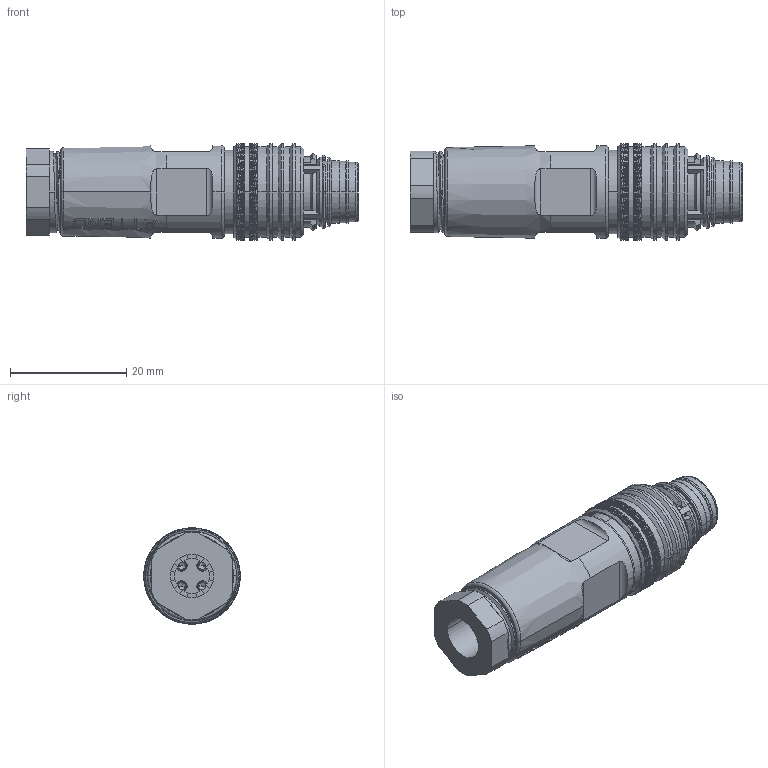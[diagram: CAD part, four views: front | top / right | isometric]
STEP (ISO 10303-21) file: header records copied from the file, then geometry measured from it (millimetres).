
FILE_DESCRIPTION((''),'2;1');
FILE_NAME('3D_DRAWING_ASM_ASM','2025-12-24T',('fros.liao'),(''),'CREO PARAMETRIC BY PTC INC, 2018360','CREO PARAMETRIC BY PTC INC, 2018360','');
FILE_SCHEMA(('AUTOMOTIVE_DESIGN { 1 0 10303 214 1 1 1 1 }'));
Products named in the file (21): SHIELD_NUT_17_1_1_1; PLASTIC_STRAPS_14_1_1_1; RUBBER_STRAPS_14_1_1_1; BACK_PLUG_15_1_1_1; BODY_11_1_1_1; ORING_PUSHPULL_6_1_1_1; THREAD_SLEEVE_ASM_23_ASM_1_ASM__ASM; MSBR-10_1_1_1; MSBR-9_1_1_1; MSBR-8_1_1_1; MSBR-7_1_1_1; MSBR-6_1_1_1; MSBR-5_1_1_1; MSBR-4_1_1_1; MSBR-3_1_1_1; MSBR-2_1_1_1; MSBR-1_1_1_1; 216A-04MO1_ASM_1_ASM_1_ASM; 216A-04MO1_C_1_ASM_1_ASM; 3D_DRAWING_ASM_3_ASM; 3D_DRAWING_ASM_ASM
Assembly tree (20 placements, depth 5):
  3D_DRAWING_ASM_ASM
    3D_DRAWING_ASM_3_ASM
      THREAD_SLEEVE_ASM_23_ASM_1_ASM__ASM
        SHIELD_NUT_17_1_1_1
        PLASTIC_STRAPS_14_1_1_1
        RUBBER_STRAPS_14_1_1_1
        BACK_PLUG_15_1_1_1
        BODY_11_1_1_1
        ORING_PUSHPULL_6_1_1_1
      216A-04MO1_C_1_ASM_1_ASM
        216A-04MO1_ASM_1_ASM_1_ASM
          MSBR-10_1_1_1
          MSBR-9_1_1_1
          MSBR-8_1_1_1
          MSBR-7_1_1_1
          MSBR-6_1_1_1
          MSBR-5_1_1_1
          MSBR-4_1_1_1
          MSBR-3_1_1_1
          MSBR-2_1_1_1
          MSBR-1_1_1_1
Bounding box: 57.15 x 16.6 x 16.6 mm (x, y, z)
Volume: 6757.5 mm3; surface area: 11728.1 mm2
Topology: 16 solids, 16 shells, 2017 faces, 4772 edges, 2814 vertices
Faces by surface type: bspline 1033, cylinder 543, plane 248, cone 129, torus 56, sphere 8
Entity records: 105810 total; most frequent: CARTESIAN_POINT 52169, ORIENTED_EDGE 9512, DIRECTION 5143, EDGE_CURVE 4756, PRESENTATION_STYLE_ASSIGNMENT 4744, STYLED_ITEM 4744, CURVE_STYLE 4729, VERTEX_POINT 2814
